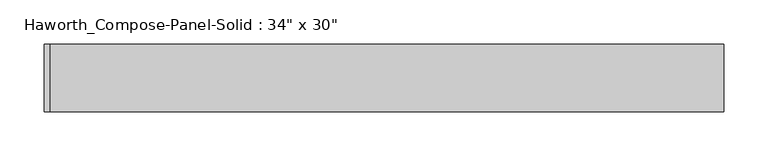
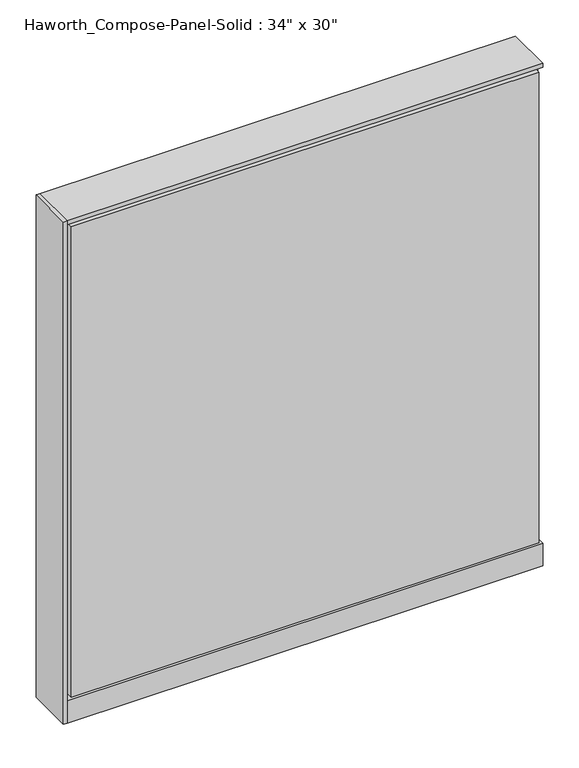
"""IFC4 building model written with IfcOpenShell, lengths in millimetres: furniture geometry."""

from ifc_helpers import new_model, si_unit, point, frame, frame_2d, origin, origin_with_axes, place, context, project, spatial, polyline, circle_curve, trimmed, segment, composite_curve, outline, extrude, source, transform, mapped, element, save


def furniture_7ad1bea9(model_context):
    return source(origin(), model_context, "Body", "SweptSolid", [
        extrude(outline(composite_curve([segment(trimmed(circle_curve(frame_2d((-302.3597098, 0.0)), 12.7), [point((-315.0597098, 0.0))], [point((-289.6597098, 0.0))], False, "CARTESIAN"), True, "CONTINUOUS"), segment(trimmed(circle_curve(frame_2d((-302.3597098, 0.0)), 12.7), [point((-289.6597098, 0.0))], [point((-315.0597098, 0.0))], False, "CARTESIAN"), True, "CONTINUOUS")], self_intersect=False)), origin_with_axes(), (0.0, 0.0, 1.0), 12.7),
        extrude(outline(composite_curve([segment(trimmed(circle_curve(frame_2d((307.2402902, 0.0)), 12.7), [point((294.5402902, 0.0))], [point((319.9402902, 0.0))], False, "CARTESIAN"), True, "CONTINUOUS"), segment(trimmed(circle_curve(frame_2d((307.2402902, 0.0)), 12.7), [point((319.9402902, 0.0))], [point((294.5402902, 0.0))], False, "CARTESIAN"), True, "CONTINUOUS")], self_intersect=False)), origin_with_axes(), (0.0, 0.0, 1.0), 12.7),
        extrude(outline(polyline([(-384.9097098, -38.1), (-384.9097098, 38.1), (-378.5597098, 38.1), (-378.5597098, -38.1), (-384.9097098, -38.1)])), frame((0.0, 0.0, 12.7), z_axis=(0.0, 0.0, 1.0), x_axis=(1.0, 0.0, 0.0)), (0.0, 0.0, 1.0), 850.9),
        extrude(outline(polyline([(377.0902902, -38.1), (-372.2097098, -38.1), (-372.2097098, -25.4), (377.0902902, -25.4), (377.0902902, -38.1)])), frame((0.0, 0.0, 53.975), z_axis=(0.0, 0.0, 1.0), x_axis=(1.0, 0.0, 0.0)), (0.0, 0.0, 1.0), 796.925),
        extrude(outline(polyline([(377.0902902, 38.1), (377.0902902, 25.4), (-372.2097098, 25.4), (-372.2097098, 38.1), (377.0902902, 38.1)])), frame((0.0, 0.0, 53.975), z_axis=(0.0, 0.0, 1.0), x_axis=(1.0, 0.0, 0.0)), (0.0, 0.0, 1.0), 796.925),
        extrude(outline(polyline([(383.4402902, -25.4), (-378.5597098, -25.4), (-378.5597098, 25.4), (383.4402902, 25.4), (383.4402902, -25.4)])), frame((0.0, 0.0, 12.7), z_axis=(0.0, 0.0, 1.0), x_axis=(1.0, 0.0, 0.0)), (0.0, 0.0, 1.0), 844.55),
        extrude(outline(polyline([(-378.5597098, 38.1), (383.4402902, 38.1), (383.4402902, -38.1), (-378.5597098, -38.1), (-378.5597098, 38.1)])), frame((0.0, 0.0, 12.7), z_axis=(0.0, 0.0, 1.0), x_axis=(1.0, 0.0, 0.0)), (0.0, 0.0, 1.0), 38.1),
        extrude(outline(polyline([(-378.5597098, 38.1), (383.4402902, 38.1), (383.4402902, -38.1), (-378.5597098, -38.1), (-378.5597098, 38.1)])), frame((0.0, 0.0, 857.25), z_axis=(0.0, 0.0, 1.0), x_axis=(1.0, 0.0, 0.0)), (0.0, 0.0, 1.0), 6.35),
    ])


if __name__ == "__main__":
    model = new_model("IFC4")
    model_context = context("Model", 3, world=origin())
    ifc_project = project(units=[si_unit("LENGTHUNIT", "METRE", prefix="MILLI")], contexts=[model_context])
    site = spatial("IfcSite", under=ifc_project)
    building = spatial("IfcBuilding", under=site)
    placement = place(None, origin())
    furniture_shape = furniture_7ad1bea9(model_context)
    element("IfcFurniture", 1, ObjectType="Haworth_Compose-Panel-Solid : 34\" x 30\"", at=placement, inside=building, context=model_context, shape_type="MappedRepresentation", body=[
        mapped(furniture_shape, transform((0.0, 0.0, 0.0), x_axis=(1.0, 0.0, 0.0), y_axis=(0.0, 1.0, 0.0), z_axis=(0.0, 0.0, 1.0))),
    ])
    save(model, "model.ifc")
